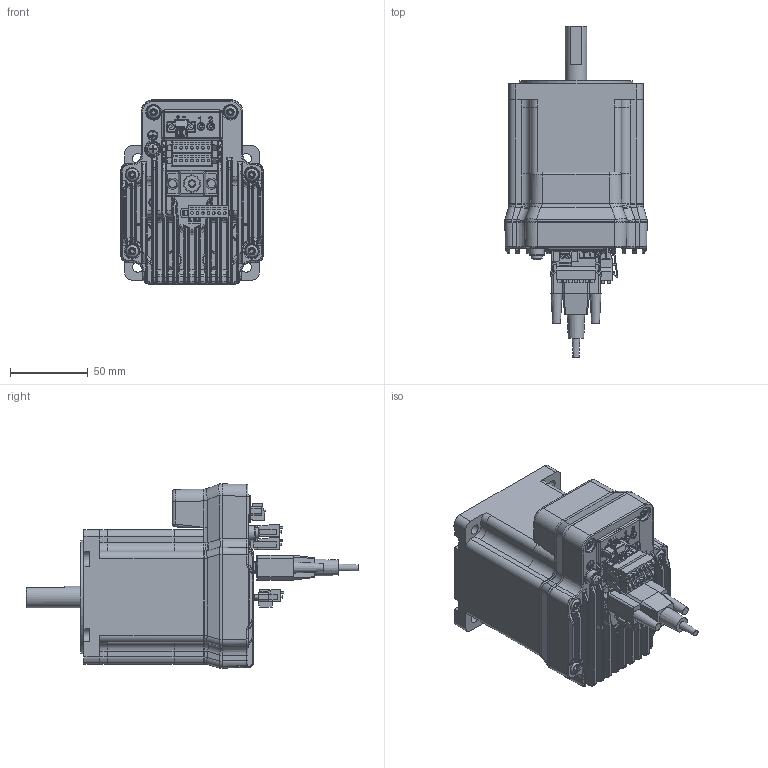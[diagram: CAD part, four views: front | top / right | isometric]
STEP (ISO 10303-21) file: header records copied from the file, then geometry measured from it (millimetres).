
FILE_DESCRIPTION(('LMDXPMA85 Double-Stack Web Model.stp'),'1');
FILE_NAME('T:/Kubotek Models For Design Assemblies/On-Line web models/LMD34/LMDXPMA85 Double-Stack Web Model.stp', '2013-06-04T19:20:10',('P. Bordua, 06-04-13'), ('Schneider Electric Motion USA'), 'KCM Version 1.1.606.0', 'Kubotek KeyCreator', 'Kubotek KeyCreator V2012 11.5.0 x64');
FILE_SCHEMA(('AUTOMOTIVE_DESIGN'));
Length unit declared in the file: inch
Products named in the file (6): DB9 Mate (cable, Female)[Part1]; Dinkle 0221-24-B3085308P, Pin-5 Keyed, Plug, 3.50mm Pitch, 7 x 1 Pos., Locking Tabs[Part1]; Dinkle 0221-24-B3085308P, Pin-2 Keyed, Plug, 3.50mm Pitch, 7 x 1 Pos., Locking Tabs[Part1]; Dinkle EC350VM-B3081302P, Plug, 3.50 mm, 2 x 1 Pos[Part1]
Bounding box: 91.24 x 212.89 x 118.12 mm (x, y, z)
Volume: 848933.3 mm3; surface area: 104993.5 mm2
Topology: 9 solids, 9 shells, 4053 faces, 10129 edges, 6376 vertices
Faces by surface type: plane 2088, cylinder 1064, bspline 721, cone 72, sphere 59, torus 49
Full cylindrical faces by diameter (mm): 1.092 x27, 1.6 x31, 1.611 x4, 1.686 x28, 2.261 x2, 2.5 x2, 2.743 x4, 3.792 x4, 5.004 x2, 6.502 x4, 6.858 x1, 8 x6, 9.006 x3, 14 x1, 15.748 x1, 66.396 x1, 73 x1
Entity records: 155591 total; most frequent: CARTESIAN_POINT 72279, ORIENTED_EDGE 16686, DIRECTION 13741, EDGE_CURVE 8343, VERTEX_POINT 5217, VECTOR 4673, LINE 4673, AXIS2_PLACEMENT_3D 4534
